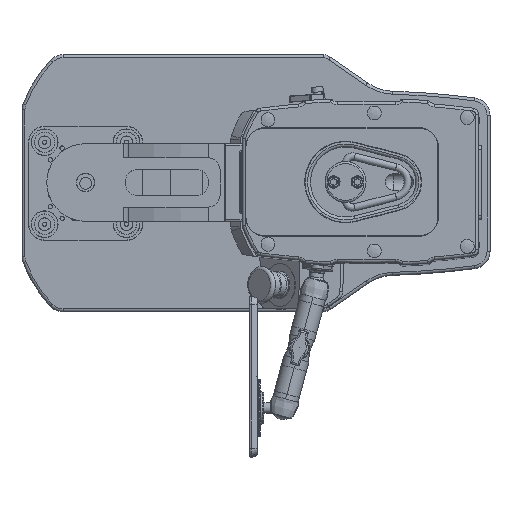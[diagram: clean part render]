
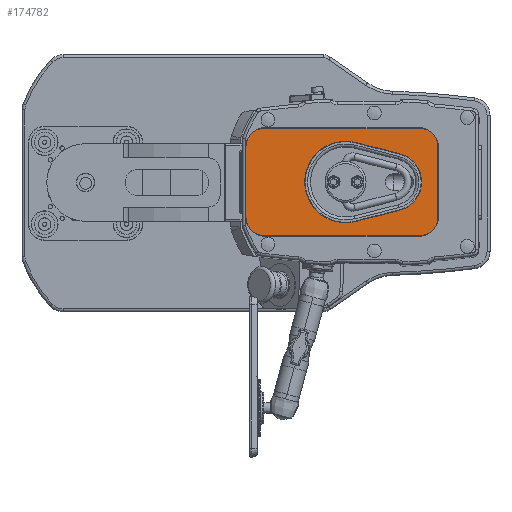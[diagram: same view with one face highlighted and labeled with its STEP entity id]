
A CAD part, top view. The second image highlights one B-rep face of the part: STEP entity #174782.
In plain terms, the highlighted planar face has unit normal (0, 0, 1).
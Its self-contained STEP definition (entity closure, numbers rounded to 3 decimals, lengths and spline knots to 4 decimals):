
#2809=FACE_BOUND('',#15887,.T.);
#7015=FACE_OUTER_BOUND('',#15886,.T.);
#15886=EDGE_LOOP('',(#132056,#132057,#132058,#132059,#132060,#132061,#132062,
#132063));
#15887=EDGE_LOOP('',(#132064,#132065,#132066,#132067));
#22706=CIRCLE('',#184485,0.8);
#22707=CIRCLE('',#184486,0.8);
#22708=CIRCLE('',#184487,0.8);
#22709=CIRCLE('',#184488,0.8);
#22710=CIRCLE('',#184489,1.744);
#22711=CIRCLE('',#184490,1.25);
#33648=LINE('',#268361,#55624);
#33649=LINE('',#268365,#55625);
#33650=LINE('',#268369,#55626);
#33651=LINE('',#268372,#55627);
#33652=LINE('',#268377,#55628);
#33653=LINE('',#268380,#55629);
#55624=VECTOR('',#209667,1.);
#55625=VECTOR('',#209670,1.);
#55626=VECTOR('',#209673,1.);
#55627=VECTOR('',#209676,1.);
#55628=VECTOR('',#209679,1.);
#55629=VECTOR('',#209682,1.);
#75787=VERTEX_POINT('',#268357);
#75788=VERTEX_POINT('',#268358);
#75789=VERTEX_POINT('',#268360);
#75790=VERTEX_POINT('',#268362);
#75791=VERTEX_POINT('',#268364);
#75792=VERTEX_POINT('',#268366);
#75793=VERTEX_POINT('',#268368);
#75794=VERTEX_POINT('',#268370);
#75795=VERTEX_POINT('',#268373);
#75796=VERTEX_POINT('',#268374);
#75797=VERTEX_POINT('',#268376);
#75798=VERTEX_POINT('',#268378);
#97118=EDGE_CURVE('',#75787,#75788,#22706,.T.);
#97119=EDGE_CURVE('',#75788,#75789,#33648,.T.);
#97120=EDGE_CURVE('',#75789,#75790,#22707,.T.);
#97121=EDGE_CURVE('',#75790,#75791,#33649,.T.);
#97122=EDGE_CURVE('',#75791,#75792,#22708,.T.);
#97123=EDGE_CURVE('',#75792,#75793,#33650,.T.);
#97124=EDGE_CURVE('',#75793,#75794,#22709,.T.);
#97125=EDGE_CURVE('',#75794,#75787,#33651,.T.);
#97126=EDGE_CURVE('',#75795,#75796,#22710,.T.);
#97127=EDGE_CURVE('',#75796,#75797,#33652,.T.);
#97128=EDGE_CURVE('',#75797,#75798,#22711,.T.);
#97129=EDGE_CURVE('',#75798,#75795,#33653,.T.);
#132056=ORIENTED_EDGE('',*,*,#97118,.T.);
#132057=ORIENTED_EDGE('',*,*,#97119,.T.);
#132058=ORIENTED_EDGE('',*,*,#97120,.T.);
#132059=ORIENTED_EDGE('',*,*,#97121,.T.);
#132060=ORIENTED_EDGE('',*,*,#97122,.T.);
#132061=ORIENTED_EDGE('',*,*,#97123,.T.);
#132062=ORIENTED_EDGE('',*,*,#97124,.T.);
#132063=ORIENTED_EDGE('',*,*,#97125,.T.);
#132064=ORIENTED_EDGE('',*,*,#97126,.T.);
#132065=ORIENTED_EDGE('',*,*,#97127,.T.);
#132066=ORIENTED_EDGE('',*,*,#97128,.T.);
#132067=ORIENTED_EDGE('',*,*,#97129,.T.);
#167169=PLANE('',#184484);
#174782=ADVANCED_FACE('',(#7015,#2809),#167169,.T.);
#184484=AXIS2_PLACEMENT_3D('',#268356,#209663,#209664);
#184485=AXIS2_PLACEMENT_3D('',#268359,#209665,#209666);
#184486=AXIS2_PLACEMENT_3D('',#268363,#209668,#209669);
#184487=AXIS2_PLACEMENT_3D('',#268367,#209671,#209672);
#184488=AXIS2_PLACEMENT_3D('',#268371,#209674,#209675);
#184489=AXIS2_PLACEMENT_3D('',#268375,#209677,#209678);
#184490=AXIS2_PLACEMENT_3D('',#268379,#209680,#209681);
#209663=DIRECTION('center_axis',(0.,0.,
1.));
#209664=DIRECTION('ref_axis',(0.,1.,0.));
#209665=DIRECTION('center_axis',(0.,0.,
1.));
#209666=DIRECTION('ref_axis',(0.,-1.,0.));
#209667=DIRECTION('',(0.,1.,0.));
#209668=DIRECTION('center_axis',(0.,0.,
1.));
#209669=DIRECTION('ref_axis',(1.,0.,0.));
#209670=DIRECTION('',(-1.,0.,0.));
#209671=DIRECTION('center_axis',(0.,0.,
1.));
#209672=DIRECTION('ref_axis',(0.,1.,0.));
#209673=DIRECTION('',(0.,-1.,0.));
#209674=DIRECTION('center_axis',(0.,0.,
1.));
#209675=DIRECTION('ref_axis',(-1.,0.,0.));
#209676=DIRECTION('',(1.,0.,0.));
#209677=DIRECTION('center_axis',(0.,0.,
-1.));
#209678=DIRECTION('ref_axis',(0.247,0.969,0.));
#209679=DIRECTION('',(0.969,-0.247,0.));
#209680=DIRECTION('center_axis',(0.,0.,
-1.));
#209681=DIRECTION('ref_axis',(0.247,-0.969,0.));
#209682=DIRECTION('',(-0.969,-0.247,0.));
#268356=CARTESIAN_POINT('Origin',(18.6818,36.2456,40.2597));
#268357=CARTESIAN_POINT('',(21.9818,33.9456,40.2597));
#268358=CARTESIAN_POINT('',(22.7818,34.7456,40.2597));
#268359=CARTESIAN_POINT('Origin',(21.9818,34.7456,40.2597));
#268360=CARTESIAN_POINT('',(22.7818,37.7456,40.2597));
#268361=CARTESIAN_POINT('',(22.7818,34.7456,40.2597));
#268362=CARTESIAN_POINT('',(21.9818,38.5456,40.2597));
#268363=CARTESIAN_POINT('Origin',(21.9818,37.7456,40.2597));
#268364=CARTESIAN_POINT('',(15.3818,38.5456,40.2597));
#268365=CARTESIAN_POINT('',(21.9818,38.5456,40.2597));
#268366=CARTESIAN_POINT('',(14.5818,37.7456,40.2597));
#268367=CARTESIAN_POINT('Origin',(15.3818,37.7456,40.2597));
#268368=CARTESIAN_POINT('',(14.5818,34.7456,40.2597));
#268369=CARTESIAN_POINT('',(14.5818,37.7456,40.2597));
#268370=CARTESIAN_POINT('',(15.3818,33.9456,40.2597));
#268371=CARTESIAN_POINT('Origin',(15.3818,34.7456,40.2597));
#268372=CARTESIAN_POINT('',(15.3818,33.9456,40.2597));
#268373=CARTESIAN_POINT('',(19.2666,34.5557,40.2597));
#268374=CARTESIAN_POINT('',(19.2666,37.9356,40.2597));
#268375=CARTESIAN_POINT('Origin',(18.8359,36.2456,40.2597));
#268376=CARTESIAN_POINT('',(21.1446,37.4569,40.2597));
#268377=CARTESIAN_POINT('',(20.1333,37.7147,40.2597));
#268378=CARTESIAN_POINT('',(21.1446,35.0344,40.2597));
#268379=CARTESIAN_POINT('Origin',(20.8359,36.2456,40.2597));
#268380=CARTESIAN_POINT('',(19.1943,34.5372,40.2597));
